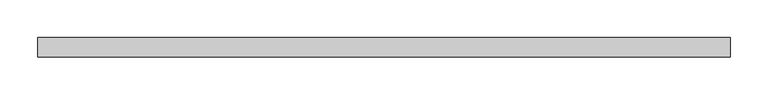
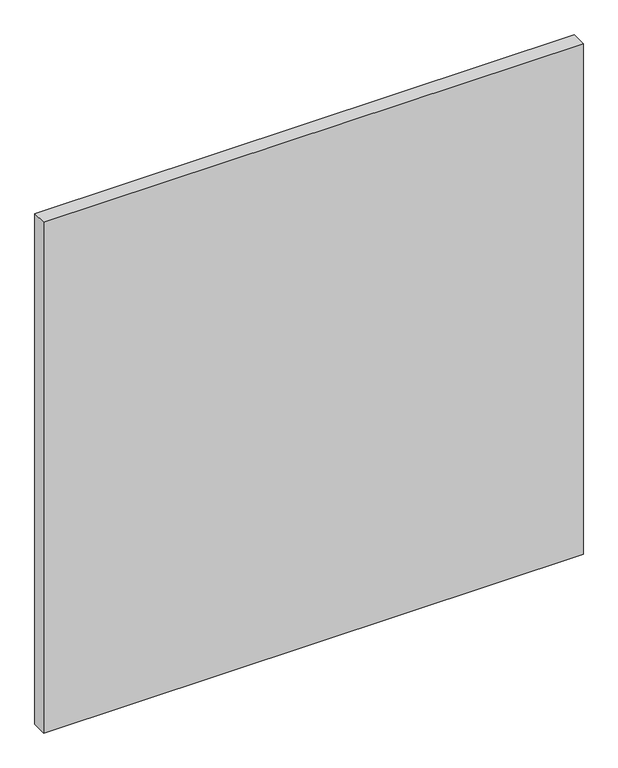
"""IFC4 building model written with IfcOpenShell, lengths in millimetres: proxy geometry, AERO^TABLE 2_H-QCSB27-SS11."""

from ifc_helpers import new_model, si_unit, frame, origin, place, context, project, spatial, polyline, outline, extrude, source, transform, mapped, element, save


def generic_models_f412d4dc(model_context):
    return source(origin(), model_context, "Body", "SweptSolid", [
        extrude(outline(polyline([(914.4, 25.4), (914.4, 0.0), (0.0, 0.0), (0.0, 25.4), (914.4, 25.4)])), frame((0.0, 0.0, -914.4), z_axis=(0.0, 0.0, 1.0), x_axis=(1.0, 0.0, 0.0)), (0.0, 0.0, 1.0), 914.4),
    ])


if __name__ == "__main__":
    model = new_model("IFC4")
    model_context = context("Model", 3, world=origin())
    ifc_project = project(units=[si_unit("LENGTHUNIT", "METRE", prefix="MILLI")], contexts=[model_context])
    site = spatial("IfcSite", under=ifc_project)
    building = spatial("IfcBuilding", under=site)
    placement = place(None, origin())
    generic_models_shape = generic_models_f412d4dc(model_context)
    element("IfcBuildingElementProxy", 1, Name="AERO^TABLE 2_H-QCSB27-SS11", ObjectType="AERO^TABLE 2_H-QCSB27-SS11", at=placement, inside=building, context=model_context, shape_type="MappedRepresentation", body=[
        mapped(generic_models_shape, transform((0.0, 0.0, 0.0), x_axis=(1.0, 0.0, 0.0), y_axis=(0.0, 1.0, 0.0), z_axis=(0.0, 0.0, 1.0))),
    ])
    save(model, "model.ifc")
